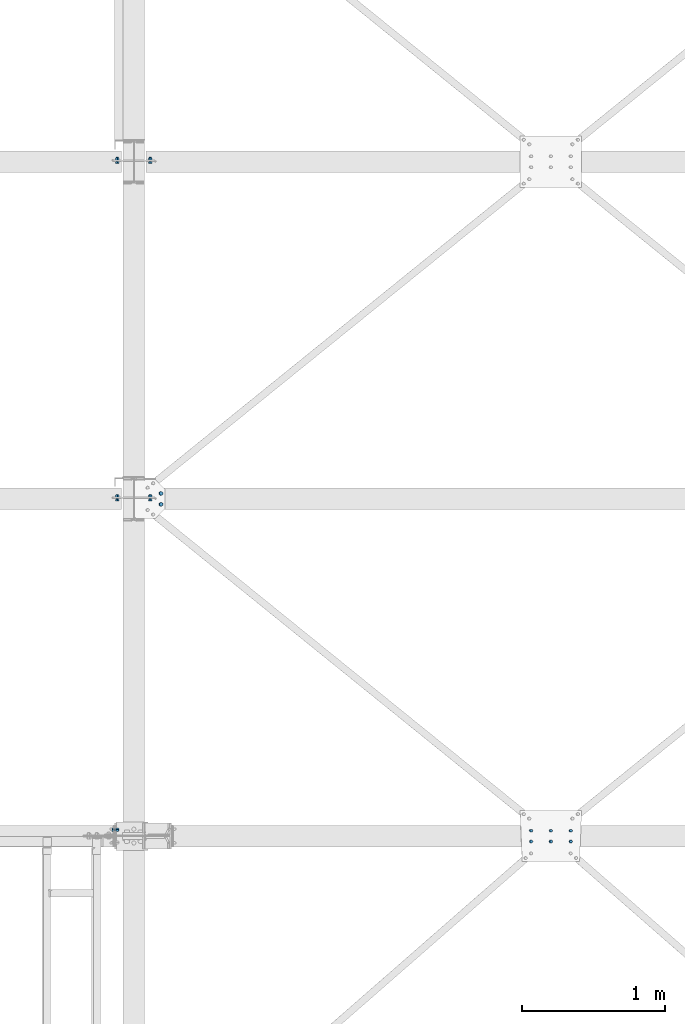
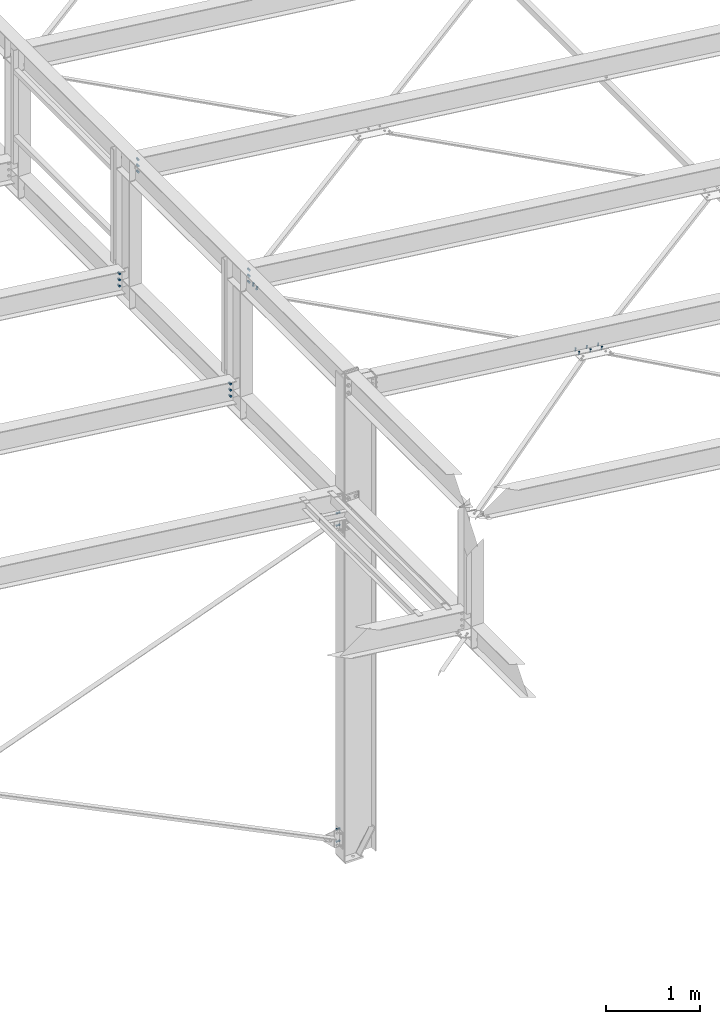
# One storey, part 132 of 3134: 8 mechanical fasteners, 7 elements without a shape of their own.
"""IFC2X3 building model written with IfcOpenShell, lengths in millimetres."""

from ifc_helpers import new_model, si_unit, frame, origin_with_axes, place, context, subcontext, project, spatial, faceted_brep, source, transform, mapped, material, type_object, element, aggregate, save


model = new_model("IFC2X3")

# Units and contexts
model_context = context("Model", 3, precision=1e-05, world=origin_with_axes())
body_context = subcontext(model_context, "Body", "Model", "MODEL_VIEW")
ifc_project = project(units=[si_unit("LENGTHUNIT", "METRE", prefix="MILLI"), si_unit("AREAUNIT", "SQUARE_METRE"), si_unit("VOLUMEUNIT", "CUBIC_METRE"), si_unit("MASSUNIT", "GRAM", prefix="KILO"), si_unit("TIMEUNIT", "SECOND"), si_unit("PLANEANGLEUNIT", "RADIAN"), si_unit("SOLIDANGLEUNIT", "STERADIAN"), si_unit("THERMODYNAMICTEMPERATUREUNIT", "DEGREE_CELSIUS"), si_unit("LUMINOUSINTENSITYUNIT", "LUMEN")], contexts=[model_context])

# Site, building, storey
site_placement = place(None, origin_with_axes())
site = spatial("IfcSite", under=ifc_project, at=site_placement, CompositionType="ELEMENT")
building_placement = place(site_placement, origin_with_axes())
building = spatial("IfcBuilding", under=site, at=building_placement, Name="Undefined", CompositionType="ELEMENT")
storey_placement = place(building_placement, origin_with_axes())
storey = spatial("IfcBuildingStorey", under=building, at=storey_placement, Name="Undefined", CompositionType="ELEMENT", Elevation=0.0)

# Assembly, mechanical fastener
assembly_1_placement = place(storey_placement, origin_with_axes())
assembly_1 = element("IfcElementAssembly", 1, at=assembly_1_placement, inside=storey, Name="300", AssemblyPlace="NOTDEFINED", PredefinedType="RIGID_FRAME")
ifc_material = material(Name="8.8")
mechanical_fastener_type = type_object("IfcMechanicalFastenerType", Name="Bolt assembly")
shared_shape_1 = source(origin_with_axes(), body_context, "Body", "Brep", [
    faceted_brep([(13.856406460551, -19.199990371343, 0.0), (6.92820323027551, -19.199990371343, 12.0), (-6.92820323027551, -19.199990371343, 12.0), (-13.856406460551, -19.199990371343, 1.69692038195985e-15), (-6.92820323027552, -19.199990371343, -12.0), (6.9282032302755, -19.199990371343, -12.0), (6.9282032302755, -9.19999037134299, -12.0), (-6.92820323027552, -9.19999037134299, -12.0), (-13.856406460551, -9.19999037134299, 1.69692038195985e-15), (-6.92820323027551, -9.19999037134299, 12.0), (6.92820323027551, -9.19999037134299, 12.0), (13.856406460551, -9.19999037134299, 0.0), (8.0, -9.19999037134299, 0.0), (6.92820323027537, -9.19999037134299, 4.00000000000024), (3.99999999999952, -9.19999037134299, 6.92820323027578), (-8.29068785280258e-13, -9.19999037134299, 8.0), (-4.00000000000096, -9.19999037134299, 6.92820323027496), (-6.9282032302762, -9.19999037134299, 3.99999999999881), (-8.0, -9.19999037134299, -1.65813757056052e-12), (-6.92820323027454, -9.19999037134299, -4.00000000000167), (-3.99999999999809, -9.19999037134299, -6.92820323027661), (2.47832457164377e-12, -9.19999037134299, -8.0), (4.00000000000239, -9.19999037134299, -6.92820323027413), (6.92820323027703, -9.19999037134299, -3.99999999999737), (6.92820323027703, 25.800009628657, -3.99999999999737), (4.00000000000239, 25.800009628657, -6.92820323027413), (2.47832457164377e-12, 25.800009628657, -8.0), (-3.99999999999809, 25.800009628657, -6.92820323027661), (-6.92820323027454, 25.800009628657, -4.00000000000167), (-8.0, 25.800009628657, -1.65813757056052e-12), (-6.9282032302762, 25.800009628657, 3.99999999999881), (-4.00000000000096, 25.800009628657, 6.92820323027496), (-8.29068785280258e-13, 25.800009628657, 8.0), (3.99999999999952, 25.800009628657, 6.92820323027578), (6.92820323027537, 25.800009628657, 4.00000000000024), (8.0, 25.800009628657, 0.0), (13.856406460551, 8.00000637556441, 0.0), (6.92820323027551, 8.00000637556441, 12.0), (-6.92820323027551, 8.00000637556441, 12.0), (-13.856406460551, 8.00000637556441, 1.69692038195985e-15), (-6.92820323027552, 8.00000637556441, -12.0), (6.9282032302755, 8.00000637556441, -12.0), (6.9282032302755, 21.0000063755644, -12.0), (-6.92820323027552, 21.0000063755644, -12.0), (-13.856406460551, 21.0000063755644, 1.69692038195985e-15), (-6.92820323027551, 21.0000063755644, 12.0), (6.92820323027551, 21.0000063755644, 12.0), (13.856406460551, 21.0000063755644, 0.0)], [[[0, 1, 2, 3, 4, 5]], [[6, 7, 8, 9, 10, 11]], [[0, 11, 10, 1]], [[1, 10, 9, 2]], [[2, 9, 8, 3]], [[3, 8, 7, 4]], [[4, 7, 6, 5]], [[5, 6, 11, 0]], [[12, 13, 14, 15, 16, 17, 18, 19, 20, 21, 22, 23]], [[24, 25, 26, 27, 28, 29, 30, 31, 32, 33, 34, 35]], [[12, 35, 34, 13]], [[13, 34, 33, 14]], [[14, 33, 32, 15]], [[15, 32, 31, 16]], [[16, 31, 30, 17]], [[17, 30, 29, 18]], [[18, 29, 28, 19]], [[19, 28, 27, 20]], [[20, 27, 26, 21]], [[21, 26, 25, 22]], [[22, 25, 24, 23]], [[23, 24, 35, 12]], [[36, 37, 38, 39, 40, 41]], [[42, 43, 44, 45, 46, 47]], [[36, 47, 46, 37]], [[37, 46, 45, 38]], [[38, 45, 44, 39]], [[39, 44, 43, 40]], [[40, 43, 42, 41]], [[41, 42, 47, 36]]]),
    faceted_brep([(9.0, -0.1, 0.0), (7.79422863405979, -0.1, 4.50000000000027), (4.49999999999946, -0.1, 7.79422863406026), (-9.3270238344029e-13, -0.1, 9.0), (-4.50000000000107, -0.1, 7.79422863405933), (-7.79422863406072, -0.1, 4.49999999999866), (-9.0, -0.1, -1.86540476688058e-12), (-7.79422863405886, -0.1, -4.50000000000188), (-4.49999999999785, -0.1, -7.79422863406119), (2.78811514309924e-12, -0.1, -9.0), (4.50000000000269, -0.1, -7.7942286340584), (7.79422863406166, -0.1, -4.49999999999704), (7.79422863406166, 8.00000000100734, -4.49999999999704), (4.50000000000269, 8.00000000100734, -7.7942286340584), (2.78811514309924e-12, 8.00000000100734, -9.0), (-4.49999999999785, 8.00000000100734, -7.79422863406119), (-7.79422863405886, 8.00000000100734, -4.50000000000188), (-9.0, 8.00000000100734, -1.86540476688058e-12), (-7.79422863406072, 8.00000000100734, 4.49999999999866), (-4.50000000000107, 8.00000000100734, 7.79422863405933), (-9.3270238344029e-13, 8.00000000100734, 9.0), (4.49999999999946, 8.00000000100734, 7.79422863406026), (7.79422863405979, 8.00000000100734, 4.50000000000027), (9.0, 8.00000000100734, 0.0), (9.0, -9.09999037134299, 0.0), (7.79422863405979, -9.09999037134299, 4.50000000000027), (4.49999999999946, -9.09999037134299, 7.79422863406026), (-9.3270238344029e-13, -9.09999037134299, 9.0), (-4.50000000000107, -9.09999037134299, 7.79422863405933), (-7.79422863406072, -9.09999037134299, 4.49999999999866), (-9.0, -9.09999037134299, -1.86540476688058e-12), (-7.79422863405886, -9.09999037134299, -4.50000000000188), (-4.49999999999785, -9.09999037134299, -7.79422863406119), (2.78811514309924e-12, -9.09999037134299, -9.0), (4.50000000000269, -9.09999037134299, -7.7942286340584), (7.79422863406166, -9.09999037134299, -4.49999999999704), (7.79422863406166, 0.100000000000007, -4.49999999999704), (4.50000000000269, 0.100000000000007, -7.7942286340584), (2.78811514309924e-12, 0.100000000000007, -9.0), (-4.49999999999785, 0.100000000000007, -7.79422863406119), (-7.79422863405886, 0.100000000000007, -4.50000000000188), (-9.0, 0.100000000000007, -1.86540476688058e-12), (-7.79422863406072, 0.100000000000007, 4.49999999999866), (-4.50000000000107, 0.100000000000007, 7.79422863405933), (-9.3270238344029e-13, 0.100000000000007, 9.0), (4.49999999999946, 0.100000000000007, 7.79422863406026), (7.79422863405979, 0.100000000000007, 4.50000000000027), (9.0, 0.100000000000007, 0.0)], [[[0, 1, 2, 3, 4, 5, 6, 7, 8, 9, 10, 11]], [[12, 13, 14, 15, 16, 17, 18, 19, 20, 21, 22, 23]], [[0, 23, 22, 1]], [[1, 22, 21, 2]], [[2, 21, 20, 3]], [[3, 20, 19, 4]], [[4, 19, 18, 5]], [[5, 18, 17, 6]], [[6, 17, 16, 7]], [[7, 16, 15, 8]], [[8, 15, 14, 9]], [[9, 14, 13, 10]], [[10, 13, 12, 11]], [[11, 12, 23, 0]], [[24, 25, 26, 27, 28, 29, 30, 31, 32, 33, 34, 35]], [[36, 37, 38, 39, 40, 41, 42, 43, 44, 45, 46, 47]], [[24, 47, 46, 25]], [[25, 46, 45, 26]], [[26, 45, 44, 27]], [[27, 44, 43, 28]], [[28, 43, 42, 29]], [[29, 42, 41, 30]], [[30, 41, 40, 31]], [[31, 40, 39, 32]], [[32, 39, 38, 33]], [[33, 38, 37, 34]], [[34, 37, 36, 35]], [[35, 36, 47, 24]]]),
])
mechanical_fastener_1_placement = place(assembly_1_placement, frame((56064.2248162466, 10047.9995130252, 5496.68063423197), z_axis=(0.992623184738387, 1.63108538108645e-05, -0.12124031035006), x_axis=(1.62000016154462e-05, -0.999999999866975, -1.90000018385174e-06)))
mechanical_fastener_1 = element("IfcMechanicalFastener", 2, at=mechanical_fastener_1_placement, type_object=mechanical_fastener_type, material=ifc_material, Name="Bolt assembly", NominalDiameter=16.0, NominalLength=35.0, context=body_context, shape_type="MappedRepresentation", body=[
    mapped(shared_shape_1, transform((0.0, 0.0, 0.0))),
    mapped(shared_shape_1, transform((76.0, 0.0, 0.0))),
])

assembly_2_placement = place(storey_placement, origin_with_axes())
assembly_2 = element("IfcElementAssembly", 3, at=assembly_2_placement, inside=storey, Name="300", AssemblyPlace="NOTDEFINED", PredefinedType="RIGID_FRAME")
shared_shape_2 = source(origin_with_axes(), body_context, "Body", "Brep", [
    faceted_brep([(13.856406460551, -13.0499999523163, 0.0), (6.92820323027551, -13.0499999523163, 12.0), (-6.92820323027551, -13.0499999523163, 12.0), (-13.856406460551, -13.0499999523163, 1.69692038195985e-15), (-6.92820323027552, -13.0499999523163, -12.0), (6.9282032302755, -13.0499999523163, -12.0), (6.9282032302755, -3.04999995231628, -12.0), (-6.92820323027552, -3.04999995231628, -12.0), (-13.856406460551, -3.04999995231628, 1.69692038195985e-15), (-6.92820323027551, -3.04999995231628, 12.0), (6.92820323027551, -3.04999995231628, 12.0), (13.856406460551, -3.04999995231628, 0.0), (8.0, -3.04999995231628, 0.0), (6.92820323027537, -3.04999995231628, 4.00000000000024), (3.99999999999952, -3.04999995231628, 6.92820323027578), (-8.29068785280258e-13, -3.04999995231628, 8.0), (-4.00000000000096, -3.04999995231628, 6.92820323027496), (-6.9282032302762, -3.04999995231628, 3.99999999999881), (-8.0, -3.04999995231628, -1.65813757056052e-12), (-6.92820323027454, -3.04999995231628, -4.00000000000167), (-3.99999999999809, -3.04999995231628, -6.92820323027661), (2.47832457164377e-12, -3.04999995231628, -8.0), (4.00000000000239, -3.04999995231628, -6.92820323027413), (6.92820323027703, -3.04999995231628, -3.99999999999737), (6.92820323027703, 31.9500000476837, -3.99999999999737), (4.00000000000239, 31.9500000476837, -6.92820323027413), (2.47832457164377e-12, 31.9500000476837, -8.0), (-3.99999999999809, 31.9500000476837, -6.92820323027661), (-6.92820323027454, 31.9500000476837, -4.00000000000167), (-8.0, 31.9500000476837, -1.65813757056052e-12), (-6.9282032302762, 31.9500000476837, 3.99999999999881), (-4.00000000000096, 31.9500000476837, 6.92820323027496), (-8.29068785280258e-13, 31.9500000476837, 8.0), (3.99999999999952, 31.9500000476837, 6.92820323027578), (6.92820323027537, 31.9500000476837, 4.00000000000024), (8.0, 31.9500000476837, 0.0), (13.856406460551, 13.0500000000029, 0.0), (6.92820323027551, 13.0500000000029, 12.0), (-6.92820323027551, 13.0500000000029, 12.0), (-13.856406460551, 13.0500000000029, 1.69692038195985e-15), (-6.92820323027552, 13.0500000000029, -12.0), (6.9282032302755, 13.0500000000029, -12.0), (6.9282032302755, 26.0500000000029, -12.0), (-6.92820323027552, 26.0500000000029, -12.0), (-13.856406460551, 26.0500000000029, 1.69692038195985e-15), (-6.92820323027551, 26.0500000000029, 12.0), (6.92820323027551, 26.0500000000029, 12.0), (13.856406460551, 26.0500000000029, 0.0)], [[[0, 1, 2, 3, 4, 5]], [[6, 7, 8, 9, 10, 11]], [[0, 11, 10, 1]], [[1, 10, 9, 2]], [[2, 9, 8, 3]], [[3, 8, 7, 4]], [[4, 7, 6, 5]], [[5, 6, 11, 0]], [[12, 13, 14, 15, 16, 17, 18, 19, 20, 21, 22, 23]], [[24, 25, 26, 27, 28, 29, 30, 31, 32, 33, 34, 35]], [[12, 35, 34, 13]], [[13, 34, 33, 14]], [[14, 33, 32, 15]], [[15, 32, 31, 16]], [[16, 31, 30, 17]], [[17, 30, 29, 18]], [[18, 29, 28, 19]], [[19, 28, 27, 20]], [[20, 27, 26, 21]], [[21, 26, 25, 22]], [[22, 25, 24, 23]], [[23, 24, 35, 12]], [[36, 37, 38, 39, 40, 41]], [[42, 43, 44, 45, 46, 47]], [[36, 47, 46, 37]], [[37, 46, 45, 38]], [[38, 45, 44, 39]], [[39, 44, 43, 40]], [[40, 43, 42, 41]], [[41, 42, 47, 36]]]),
    faceted_brep([(9.0, 2.95000000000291, 0.0), (7.79422863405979, 2.95000000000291, 4.50000000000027), (4.49999999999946, 2.95000000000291, 7.79422863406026), (-9.3270238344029e-13, 2.95000000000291, 9.0), (-4.50000000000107, 2.95000000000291, 7.79422863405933), (-7.79422863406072, 2.95000000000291, 4.49999999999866), (-9.0, 2.95000000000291, -1.86540476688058e-12), (-7.79422863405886, 2.95000000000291, -4.50000000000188), (-4.49999999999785, 2.95000000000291, -7.79422863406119), (2.78811514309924e-12, 2.95000000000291, -9.0), (4.50000000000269, 2.95000000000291, -7.7942286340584), (7.79422863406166, 2.95000000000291, -4.49999999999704), (7.79422863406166, 13.0500000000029, -4.49999999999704), (4.50000000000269, 13.0500000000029, -7.7942286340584), (2.78811514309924e-12, 13.0500000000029, -9.0), (-4.49999999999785, 13.0500000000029, -7.79422863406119), (-7.79422863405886, 13.0500000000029, -4.50000000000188), (-9.0, 13.0500000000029, -1.86540476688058e-12), (-7.79422863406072, 13.0500000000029, 4.49999999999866), (-4.50000000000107, 13.0500000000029, 7.79422863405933), (-9.3270238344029e-13, 13.0500000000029, 9.0), (4.49999999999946, 13.0500000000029, 7.79422863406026), (7.79422863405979, 13.0500000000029, 4.50000000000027), (9.0, 13.0500000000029, 0.0), (9.0, -2.94999995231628, 0.0), (7.79422863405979, -2.94999995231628, 4.50000000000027), (4.49999999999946, -2.94999995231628, 7.79422863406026), (-9.3270238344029e-13, -2.94999995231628, 9.0), (-4.50000000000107, -2.94999995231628, 7.79422863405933), (-7.79422863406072, -2.94999995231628, 4.49999999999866), (-9.0, -2.94999995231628, -1.86540476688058e-12), (-7.79422863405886, -2.94999995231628, -4.50000000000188), (-4.49999999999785, -2.94999995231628, -7.79422863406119), (2.78811514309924e-12, -2.94999995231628, -9.0), (4.50000000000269, -2.94999995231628, -7.7942286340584), (7.79422863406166, -2.94999995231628, -4.49999999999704), (7.79422863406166, 3.14999995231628, -4.49999999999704), (4.50000000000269, 3.14999995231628, -7.7942286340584), (2.78811514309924e-12, 3.14999995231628, -9.0), (-4.49999999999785, 3.14999995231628, -7.79422863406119), (-7.79422863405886, 3.14999995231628, -4.50000000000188), (-9.0, 3.14999995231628, -1.86540476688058e-12), (-7.79422863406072, 3.14999995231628, 4.49999999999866), (-4.50000000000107, 3.14999995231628, 7.79422863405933), (-9.3270238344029e-13, 3.14999995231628, 9.0), (4.49999999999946, 3.14999995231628, 7.79422863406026), (7.79422863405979, 3.14999995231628, 4.50000000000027), (9.0, 3.14999995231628, 0.0)], [[[0, 1, 2, 3, 4, 5, 6, 7, 8, 9, 10, 11]], [[12, 13, 14, 15, 16, 17, 18, 19, 20, 21, 22, 23]], [[0, 23, 22, 1]], [[1, 22, 21, 2]], [[2, 21, 20, 3]], [[3, 20, 19, 4]], [[4, 19, 18, 5]], [[5, 18, 17, 6]], [[6, 17, 16, 7]], [[7, 16, 15, 8]], [[8, 15, 14, 9]], [[9, 14, 13, 10]], [[10, 13, 12, 11]], [[11, 12, 23, 0]], [[24, 25, 26, 27, 28, 29, 30, 31, 32, 33, 34, 35]], [[36, 37, 38, 39, 40, 41, 42, 43, 44, 45, 46, 47]], [[24, 47, 46, 25]], [[25, 46, 45, 26]], [[26, 45, 44, 27]], [[27, 44, 43, 28]], [[28, 43, 42, 29]], [[29, 42, 41, 30]], [[30, 41, 40, 31]], [[31, 40, 39, 32]], [[32, 39, 38, 33]], [[33, 38, 37, 34]], [[34, 37, 36, 35]], [[35, 36, 47, 24]]]),
])
mechanical_fastener_2_placement = place(assembly_2_placement, frame((55760.0, 12370.0, 4337.44269270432), z_axis=(1.0, 0.0, 0.0), x_axis=(0.0, 0.0, -1.0)))
mechanical_fastener_2 = element("IfcMechanicalFastener", 4, at=mechanical_fastener_2_placement, type_object=mechanical_fastener_type, material=ifc_material, Name="Bolt assembly", NominalDiameter=16.0, NominalLength=35.0, context=body_context, shape_type="MappedRepresentation", body=[
    mapped(shared_shape_2, transform((0.0, 0.0, 0.0))),
    mapped(shared_shape_2, transform((80.0, 0.0, 0.0))),
    mapped(shared_shape_2, transform((160.0, 0.0, 0.0))),
])
aggregate(assembly_2, [mechanical_fastener_2])

assembly_3_placement = place(storey_placement, origin_with_axes())
assembly_3 = element("IfcElementAssembly", 5, at=assembly_3_placement, inside=storey, Name="300", AssemblyPlace="NOTDEFINED", PredefinedType="RIGID_FRAME")
mechanical_fastener_3_placement = place(assembly_3_placement, frame((55760.0, 10010.0, 4337.44269270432), z_axis=(1.0, 0.0, 0.0), x_axis=(0.0, 0.0, -1.0)))
mechanical_fastener_3 = element("IfcMechanicalFastener", 6, at=mechanical_fastener_3_placement, type_object=mechanical_fastener_type, material=ifc_material, Name="Bolt assembly", NominalDiameter=16.0, NominalLength=35.0, context=body_context, shape_type="MappedRepresentation", body=[
    mapped(shared_shape_2, transform((0.0, 0.0, 0.0))),
    mapped(shared_shape_2, transform((80.0, 0.0, 0.0))),
    mapped(shared_shape_2, transform((160.0, 0.0, 0.0))),
])
aggregate(assembly_3, [mechanical_fastener_3])

# Mechanical fastener
mechanical_fastener_4_placement = place(assembly_1_placement, frame((55990.0, 10010.0, 5735.35014950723), z_axis=(1.0, 0.0, 0.0), x_axis=(0.0, 0.0, -1.0)))
mechanical_fastener_4 = element("IfcMechanicalFastener", 7, at=mechanical_fastener_4_placement, type_object=mechanical_fastener_type, material=ifc_material, Name="Bolt assembly", NominalDiameter=16.0, NominalLength=35.0, context=body_context, shape_type="MappedRepresentation", body=[
    mapped(shared_shape_2, transform((0.0, 0.0, 0.0))),
    mapped(shared_shape_2, transform((80.0, 0.0, 0.0))),
    mapped(shared_shape_2, transform((160.0, 0.0, 0.0))),
])

aggregate(assembly_1, [mechanical_fastener_4, mechanical_fastener_1])

# Assembly, mechanical fastener
assembly_4_placement = place(storey_placement, origin_with_axes())
assembly_4 = element("IfcElementAssembly", 8, at=assembly_4_placement, inside=storey, Name="300", AssemblyPlace="NOTDEFINED", PredefinedType="RIGID_FRAME")
mechanical_fastener_5_placement = place(assembly_4_placement, frame((55990.0, 12370.0, 5735.35014950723), z_axis=(1.0, 0.0, 0.0), x_axis=(0.0, 0.0, -1.0)))
mechanical_fastener_5 = element("IfcMechanicalFastener", 9, at=mechanical_fastener_5_placement, type_object=mechanical_fastener_type, material=ifc_material, Name="Bolt assembly", NominalDiameter=16.0, NominalLength=35.0, context=body_context, shape_type="MappedRepresentation", body=[
    mapped(shared_shape_2, transform((0.0, 0.0, 0.0))),
    mapped(shared_shape_2, transform((80.0, 0.0, 0.0))),
    mapped(shared_shape_2, transform((160.0, 0.0, 0.0))),
])
aggregate(assembly_4, [mechanical_fastener_5])

assembly_5_placement = place(storey_placement, origin_with_axes())
assembly_5 = element("IfcElementAssembly", 10, at=assembly_5_placement, inside=storey, Name="300", AssemblyPlace="NOTDEFINED", PredefinedType="RIGID_FRAME")
shared_shape_3 = source(origin_with_axes(), body_context, "Body", "Brep", [
    faceted_brep([(10.9696551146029, -17.1999998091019, 0.0), (5.48482755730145, -17.1999998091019, 9.5), (-5.48482755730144, -17.1999998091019, 9.5), (-10.9696551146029, -17.1999998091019, 1.34339530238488e-15), (-5.48482755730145, -17.1999998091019, -9.5), (5.48482755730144, -17.1999998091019, -9.50000000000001), (5.48482755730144, -9.19999978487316, -9.50000000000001), (-5.48482755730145, -9.19999978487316, -9.5), (-10.9696551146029, -9.19999978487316, 1.34339530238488e-15), (-5.48482755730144, -9.19999978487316, 9.5), (5.48482755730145, -9.19999978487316, 9.5), (10.9696551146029, -9.19999978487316, 0.0), (6.0, -9.19999978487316, 0.0), (5.19615242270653, -9.19999978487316, 3.00000000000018), (2.99999999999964, -9.19999978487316, 5.19615242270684), (-6.21801588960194e-13, -9.19999978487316, 6.0), (-3.00000000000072, -9.19999978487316, 5.19615242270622), (-5.19615242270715, -9.19999978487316, 2.9999999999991), (-6.0, -9.19999978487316, -1.24360317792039e-12), (-5.19615242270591, -9.19999978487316, -3.00000000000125), (-2.99999999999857, -9.19999978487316, -5.19615242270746), (1.85874342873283e-12, -9.19999978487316, -6.0), (3.00000000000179, -9.19999978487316, -5.1961524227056), (5.19615242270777, -9.19999978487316, -2.99999999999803), (5.19615242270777, 25.8000002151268, -2.99999999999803), (3.00000000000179, 25.8000002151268, -5.1961524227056), (1.85874342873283e-12, 25.8000002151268, -6.0), (-2.99999999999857, 25.8000002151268, -5.19615242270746), (-5.19615242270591, 25.8000002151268, -3.00000000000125), (-6.0, 25.8000002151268, -1.24360317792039e-12), (-5.19615242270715, 25.8000002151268, 2.9999999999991), (-3.00000000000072, 25.8000002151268, 5.19615242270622), (-6.21801588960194e-13, 25.8000002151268, 6.0), (2.99999999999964, 25.8000002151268, 5.19615242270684), (5.19615242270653, 25.8000002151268, 3.00000000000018), (6.0, 25.8000002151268, 0.0), (10.9696551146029, 8.0, 0.0), (5.48482755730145, 8.0, 9.5), (-5.48482755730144, 8.0, 9.5), (-10.9696551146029, 8.0, 1.34339530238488e-15), (-5.48482755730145, 8.0, -9.5), (5.48482755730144, 8.0, -9.50000000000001), (5.48482755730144, 18.0, -9.50000000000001), (-5.48482755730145, 18.0, -9.5), (-10.9696551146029, 18.0, 1.34339530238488e-15), (-5.48482755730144, 18.0, 9.5), (5.48482755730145, 18.0, 9.5), (10.9696551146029, 18.0, 0.0)], [[[0, 1, 2, 3, 4, 5]], [[6, 7, 8, 9, 10, 11]], [[0, 11, 10, 1]], [[1, 10, 9, 2]], [[2, 9, 8, 3]], [[3, 8, 7, 4]], [[4, 7, 6, 5]], [[5, 6, 11, 0]], [[12, 13, 14, 15, 16, 17, 18, 19, 20, 21, 22, 23]], [[24, 25, 26, 27, 28, 29, 30, 31, 32, 33, 34, 35]], [[12, 35, 34, 13]], [[13, 34, 33, 14]], [[14, 33, 32, 15]], [[15, 32, 31, 16]], [[16, 31, 30, 17]], [[17, 30, 29, 18]], [[18, 29, 28, 19]], [[19, 28, 27, 20]], [[20, 27, 26, 21]], [[21, 26, 25, 22]], [[22, 25, 24, 23]], [[23, 24, 35, 12]], [[36, 37, 38, 39, 40, 41]], [[42, 43, 44, 45, 46, 47]], [[36, 47, 46, 37]], [[37, 46, 45, 38]], [[38, 45, 44, 39]], [[39, 44, 43, 40]], [[40, 43, 42, 41]], [[41, 42, 47, 36]]]),
    faceted_brep([(7.0, -0.1, 0.0), (6.06217782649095, -0.1, 3.50000000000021), (3.49999999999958, -0.1, 6.06217782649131), (-7.25435187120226e-13, -0.1, 7.0), (-3.50000000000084, -0.1, 6.06217782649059), (-6.06217782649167, -0.1, 3.49999999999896), (-7.0, -0.1, -1.45087037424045e-12), (-6.06217782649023, -0.1, -3.50000000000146), (-3.49999999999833, -0.1, -6.06217782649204), (2.1685340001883e-12, -0.1, -7.0), (3.50000000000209, -0.1, -6.06217782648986), (6.0621778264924, -0.1, -3.4999999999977), (6.0621778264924, 8.0000000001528, -3.4999999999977), (3.50000000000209, 8.0000000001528, -6.06217782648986), (2.1685340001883e-12, 8.0000000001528, -7.0), (-3.49999999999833, 8.0000000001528, -6.06217782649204), (-6.06217782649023, 8.0000000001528, -3.50000000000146), (-7.0, 8.0000000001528, -1.45087037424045e-12), (-6.06217782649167, 8.0000000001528, 3.49999999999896), (-3.50000000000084, 8.0000000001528, 6.06217782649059), (-7.25435187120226e-13, 8.0000000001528, 7.0), (3.49999999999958, 8.0000000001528, 6.06217782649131), (6.06217782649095, 8.0000000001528, 3.50000000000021), (7.0, 8.0000000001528, 0.0), (7.0, -9.09999980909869, 0.0), (6.06217782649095, -9.09999980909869, 3.50000000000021), (3.49999999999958, -9.09999980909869, 6.06217782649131), (-7.25435187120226e-13, -9.09999980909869, 7.0), (-3.50000000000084, -9.09999980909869, 6.06217782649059), (-6.06217782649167, -9.09999980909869, 3.49999999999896), (-7.0, -9.09999980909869, -1.45087037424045e-12), (-6.06217782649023, -9.09999980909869, -3.50000000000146), (-3.49999999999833, -9.09999980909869, -6.06217782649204), (2.1685340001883e-12, -9.09999980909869, -7.0), (3.50000000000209, -9.09999980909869, -6.06217782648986), (6.0621778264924, -9.09999980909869, -3.4999999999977), (6.0621778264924, 0.0999999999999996, -3.4999999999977), (3.50000000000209, 0.0999999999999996, -6.06217782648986), (2.1685340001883e-12, 0.0999999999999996, -7.0), (-3.49999999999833, 0.0999999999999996, -6.06217782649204), (-6.06217782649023, 0.0999999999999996, -3.50000000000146), (-7.0, 0.0999999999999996, -1.45087037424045e-12), (-6.06217782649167, 0.0999999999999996, 3.49999999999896), (-3.50000000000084, 0.0999999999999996, 6.06217782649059), (-7.25435187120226e-13, 0.0999999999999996, 7.0), (3.49999999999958, 0.0999999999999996, 6.06217782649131), (6.06217782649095, 0.0999999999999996, 3.50000000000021), (7.0, 0.0999999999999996, 0.0)], [[[0, 1, 2, 3, 4, 5, 6, 7, 8, 9, 10, 11]], [[12, 13, 14, 15, 16, 17, 18, 19, 20, 21, 22, 23]], [[0, 23, 22, 1]], [[1, 22, 21, 2]], [[2, 21, 20, 3]], [[3, 20, 19, 4]], [[4, 19, 18, 5]], [[5, 18, 17, 6]], [[6, 17, 16, 7]], [[7, 16, 15, 8]], [[8, 15, 14, 9]], [[9, 14, 13, 10]], [[10, 13, 12, 11]], [[11, 12, 23, 0]], [[24, 25, 26, 27, 28, 29, 30, 31, 32, 33, 34, 35]], [[36, 37, 38, 39, 40, 41, 42, 43, 44, 45, 46, 47]], [[24, 47, 46, 25]], [[25, 46, 45, 26]], [[26, 45, 44, 27]], [[27, 44, 43, 28]], [[28, 43, 42, 29]], [[29, 42, 41, 30]], [[30, 41, 40, 31]], [[31, 40, 39, 32]], [[32, 39, 38, 33]], [[33, 38, 37, 34]], [[34, 37, 36, 35]], [[35, 36, 47, 24]]]),
])
mechanical_fastener_6_placement = place(assembly_5_placement, frame((58933.202206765, 7650.0, 5146.25993621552), z_axis=(0.0, -1.0, 0.0), x_axis=(-0.992623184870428, 0.0, 0.121240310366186)))
mechanical_fastener_6 = element("IfcMechanicalFastener", 11, at=mechanical_fastener_6_placement, type_object=mechanical_fastener_type, material=ifc_material, Name="Bolt assembly", NominalDiameter=12.0, NominalLength=35.0, context=body_context, shape_type="MappedRepresentation", body=[
    mapped(shared_shape_3, transform((0.0, 0.0, -38.0))),
    mapped(shared_shape_3, transform((140.000000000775, 5.85714587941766e-10, -38.0))),
    mapped(shared_shape_3, transform((279.999999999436, -4.74756234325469e-10, -38.0))),
    mapped(shared_shape_3, transform((0.0, 0.0, 38.0))),
    mapped(shared_shape_3, transform((140.000000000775, 5.85714587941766e-10, 38.0))),
    mapped(shared_shape_3, transform((279.999999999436, -4.74756234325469e-10, 38.0))),
])
aggregate(assembly_5, [mechanical_fastener_6])

assembly_6_placement = place(storey_placement, origin_with_axes())
assembly_6 = element("IfcElementAssembly", 12, at=assembly_6_placement, inside=storey, AssemblyPlace="NOTDEFINED", PredefinedType="RIGID_FRAME")
shared_shape_4 = source(origin_with_axes(), body_context, "Body", "Brep", [
    faceted_brep([(13.856406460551, -16.999999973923, 0.0), (6.92820323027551, -16.999999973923, 12.0), (-6.92820323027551, -16.999999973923, 12.0), (-13.856406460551, -16.999999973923, 1.69692038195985e-15), (-6.92820323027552, -16.999999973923, -12.0), (6.9282032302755, -16.999999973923, -12.0), (6.9282032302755, -7.0, -12.0), (-6.92820323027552, -7.0, -12.0), (-13.856406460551, -7.0, 1.69692038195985e-15), (-6.92820323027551, -7.0, 12.0), (6.92820323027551, -7.0, 12.0), (13.856406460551, -7.0, 0.0), (8.0, -7.0, 0.0), (6.92820323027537, -7.0, 4.00000000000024), (3.99999999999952, -7.0, 6.92820323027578), (-8.29068785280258e-13, -7.0, 8.0), (-4.00000000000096, -7.0, 6.92820323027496), (-6.9282032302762, -7.0, 3.99999999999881), (-8.0, -7.0, -1.65813757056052e-12), (-6.92820323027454, -7.0, -4.00000000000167), (-3.99999999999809, -7.0, -6.92820323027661), (2.47832457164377e-12, -7.0, -8.0), (4.00000000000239, -7.0, -6.92820323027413), (6.92820323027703, -7.0, -3.99999999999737), (6.92820323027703, 33.0, -3.99999999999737), (4.00000000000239, 33.0, -6.92820323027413), (2.47832457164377e-12, 33.0, -8.0), (-3.99999999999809, 33.0, -6.92820323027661), (-6.92820323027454, 33.0, -4.00000000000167), (-8.0, 33.0, -1.65813757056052e-12), (-6.9282032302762, 33.0, 3.99999999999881), (-4.00000000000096, 33.0, 6.92820323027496), (-8.29068785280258e-13, 33.0, 8.0), (3.99999999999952, 33.0, 6.92820323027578), (6.92820323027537, 33.0, 4.00000000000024), (8.0, 33.0, 0.0), (13.856406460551, 13.5000000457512, 0.0), (6.92820323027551, 13.5000000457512, 12.0), (-6.92820323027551, 13.5000000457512, 12.0), (-13.856406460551, 13.5000000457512, 1.69692038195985e-15), (-6.92820323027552, 13.5000000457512, -12.0), (6.9282032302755, 13.5000000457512, -12.0), (6.9282032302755, 26.5000000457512, -12.0), (-6.92820323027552, 26.5000000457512, -12.0), (-13.856406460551, 26.5000000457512, 1.69692038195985e-15), (-6.92820323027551, 26.5000000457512, 12.0), (6.92820323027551, 26.5000000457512, 12.0), (13.856406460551, 26.5000000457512, 0.0)], [[[0, 1, 2, 3, 4, 5]], [[6, 7, 8, 9, 10, 11]], [[0, 11, 10, 1]], [[1, 10, 9, 2]], [[2, 9, 8, 3]], [[3, 8, 7, 4]], [[4, 7, 6, 5]], [[5, 6, 11, 0]], [[12, 13, 14, 15, 16, 17, 18, 19, 20, 21, 22, 23]], [[24, 25, 26, 27, 28, 29, 30, 31, 32, 33, 34, 35]], [[12, 35, 34, 13]], [[13, 34, 33, 14]], [[14, 33, 32, 15]], [[15, 32, 31, 16]], [[16, 31, 30, 17]], [[17, 30, 29, 18]], [[18, 29, 28, 19]], [[19, 28, 27, 20]], [[20, 27, 26, 21]], [[21, 26, 25, 22]], [[22, 25, 24, 23]], [[23, 24, 35, 12]], [[36, 37, 38, 39, 40, 41]], [[42, 43, 44, 45, 46, 47]], [[36, 47, 46, 37]], [[37, 46, 45, 38]], [[38, 45, 44, 39]], [[39, 44, 43, 40]], [[40, 43, 42, 41]], [[41, 42, 47, 36]]]),
    faceted_brep([(9.0, -0.1, 0.0), (7.79422863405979, -0.1, 4.50000000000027), (4.49999999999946, -0.1, 7.79422863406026), (-9.3270238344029e-13, -0.1, 9.0), (-4.50000000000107, -0.1, 7.79422863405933), (-7.79422863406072, -0.1, 4.49999999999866), (-9.0, -0.1, -1.86540476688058e-12), (-7.79422863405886, -0.1, -4.50000000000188), (-4.49999999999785, -0.1, -7.79422863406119), (2.78811514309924e-12, -0.1, -9.0), (4.50000000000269, -0.1, -7.7942286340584), (7.79422863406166, -0.1, -4.49999999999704), (7.79422863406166, 13.5000000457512, -4.49999999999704), (4.50000000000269, 13.5000000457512, -7.7942286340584), (2.78811514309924e-12, 13.5000000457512, -9.0), (-4.49999999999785, 13.5000000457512, -7.79422863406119), (-7.79422863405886, 13.5000000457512, -4.50000000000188), (-9.0, 13.5000000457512, -1.86540476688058e-12), (-7.79422863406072, 13.5000000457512, 4.49999999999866), (-4.50000000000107, 13.5000000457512, 7.79422863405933), (-9.3270238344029e-13, 13.5000000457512, 9.0), (4.49999999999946, 13.5000000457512, 7.79422863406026), (7.79422863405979, 13.5000000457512, 4.50000000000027), (9.0, 13.5000000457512, 0.0), (9.0, -6.89999997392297, 0.0), (7.79422863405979, -6.89999997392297, 4.50000000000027), (4.49999999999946, -6.89999997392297, 7.79422863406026), (-9.3270238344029e-13, -6.89999997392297, 9.0), (-4.50000000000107, -6.89999997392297, 7.79422863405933), (-7.79422863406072, -6.89999997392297, 4.49999999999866), (-9.0, -6.89999997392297, -1.86540476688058e-12), (-7.79422863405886, -6.89999997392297, -4.50000000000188), (-4.49999999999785, -6.89999997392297, -7.79422863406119), (2.78811514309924e-12, -6.89999997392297, -9.0), (4.50000000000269, -6.89999997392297, -7.7942286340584), (7.79422863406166, -6.89999997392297, -4.49999999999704), (7.79422863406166, 0.100000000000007, -4.49999999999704), (4.50000000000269, 0.100000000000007, -7.7942286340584), (2.78811514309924e-12, 0.100000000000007, -9.0), (-4.49999999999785, 0.100000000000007, -7.79422863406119), (-7.79422863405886, 0.100000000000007, -4.50000000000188), (-9.0, 0.100000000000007, -1.86540476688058e-12), (-7.79422863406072, 0.100000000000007, 4.49999999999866), (-4.50000000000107, 0.100000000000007, 7.79422863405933), (-9.3270238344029e-13, 0.100000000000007, 9.0), (4.49999999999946, 0.100000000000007, 7.79422863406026), (7.79422863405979, 0.100000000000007, 4.50000000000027), (9.0, 0.100000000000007, 0.0)], [[[0, 1, 2, 3, 4, 5, 6, 7, 8, 9, 10, 11]], [[12, 13, 14, 15, 16, 17, 18, 19, 20, 21, 22, 23]], [[0, 23, 22, 1]], [[1, 22, 21, 2]], [[2, 21, 20, 3]], [[3, 20, 19, 4]], [[4, 19, 18, 5]], [[5, 18, 17, 6]], [[6, 17, 16, 7]], [[7, 16, 15, 8]], [[8, 15, 14, 9]], [[9, 14, 13, 10]], [[10, 13, 12, 11]], [[11, 12, 23, 0]], [[24, 25, 26, 27, 28, 29, 30, 31, 32, 33, 34, 35]], [[36, 37, 38, 39, 40, 41, 42, 43, 44, 45, 46, 47]], [[24, 47, 46, 25]], [[25, 46, 45, 26]], [[26, 45, 44, 27]], [[27, 44, 43, 28]], [[28, 43, 42, 29]], [[29, 42, 41, 30]], [[30, 41, 40, 31]], [[31, 40, 39, 32]], [[32, 39, 38, 33]], [[33, 38, 37, 34]], [[34, 37, 36, 35]], [[35, 36, 47, 24]]]),
])
mechanical_fastener_7_placement = place(assembly_6_placement, frame((55739.9999999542, 7650.0, -29.9980790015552), z_axis=(0.0, -1.0, 0.0), x_axis=(0.0, 0.0, -1.0)))
mechanical_fastener_7 = element("IfcMechanicalFastener", 13, at=mechanical_fastener_7_placement, type_object=mechanical_fastener_type, material=ifc_material, Name="Bolt assembly", NominalDiameter=16.0, NominalLength=40.0, context=body_context, shape_type="MappedRepresentation", body=[
    mapped(shared_shape_4, transform((0.0, 0.0, -45.0))),
    mapped(shared_shape_4, transform((160.0, 0.0, -45.0))),
])
aggregate(assembly_6, [mechanical_fastener_7])

assembly_7_placement = place(storey_placement, origin_with_axes())
assembly_7 = element("IfcElementAssembly", 14, at=assembly_7_placement, inside=storey, AssemblyPlace="NOTDEFINED", PredefinedType="RIGID_FRAME")
mechanical_fastener_8_placement = place(assembly_7_placement, frame((55739.9999999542, 7650.0, 4070.28192099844), z_axis=(0.0, -1.0, 0.0), x_axis=(0.0, 0.0, -1.0)))
mechanical_fastener_8 = element("IfcMechanicalFastener", 15, at=mechanical_fastener_8_placement, type_object=mechanical_fastener_type, material=ifc_material, Name="Bolt assembly", NominalDiameter=16.0, NominalLength=40.0, context=body_context, shape_type="MappedRepresentation", body=[
    mapped(shared_shape_4, transform((0.0, 0.0, -45.0))),
    mapped(shared_shape_4, transform((160.0, 0.0, -45.0))),
])
aggregate(assembly_7, [mechanical_fastener_8])

save(model, "model.ifc")
